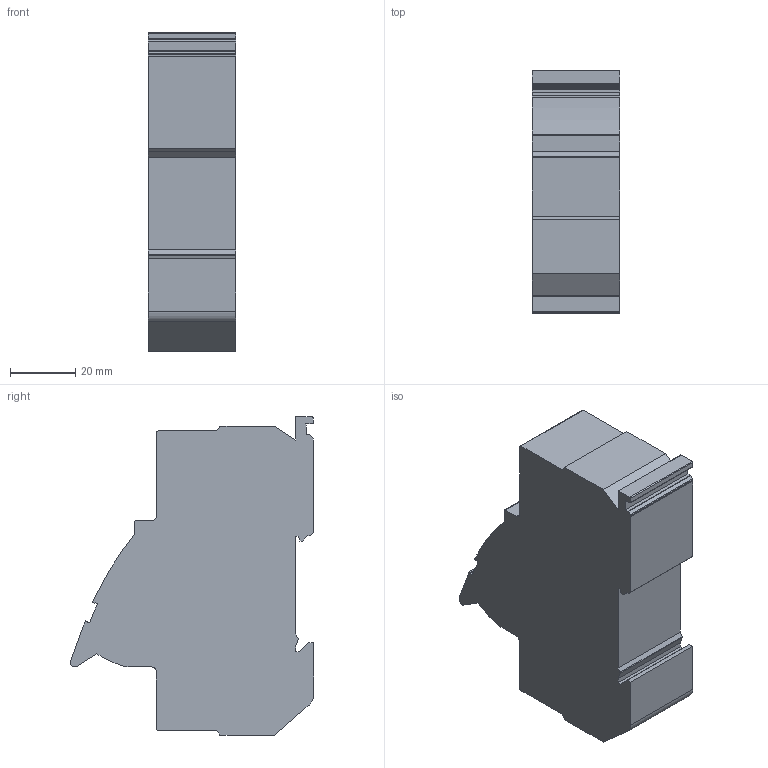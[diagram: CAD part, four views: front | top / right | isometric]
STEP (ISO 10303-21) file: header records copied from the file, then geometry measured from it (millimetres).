
FILE_DESCRIPTION (( 'STEP AP214' ), '1' );
FILE_NAME ('OptiHold CFH14-1.STEP', '2025-09-29T11:45:13', ( '' ), ( '' ), 'SwSTEP 2.0', 'SolidWorks 2018', '' );
FILE_SCHEMA (( 'AUTOMOTIVE_DESIGN' ));
Length unit declared in the file: millimetre
Products named in the file (2): OptiHold CFH14-1
Bounding box: 27 x 74.66 x 97.9 mm (x, y, z)
Volume: 135435.4 mm3; surface area: 19494.9 mm2
Topology: 1 solids, 1 shells, 75 faces, 219 edges, 146 vertices
Faces by surface type: plane 47, cylinder 27, bspline 1
Entity records: 3350 total; most frequent: CARTESIAN_POINT 1263, ORIENTED_EDGE 438, DIRECTION 423, EDGE_CURVE 219, LINE 163, VECTOR 163, VERTEX_POINT 146, AXIS2_PLACEMENT_3D 130
